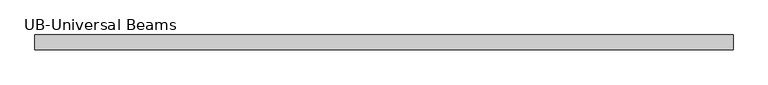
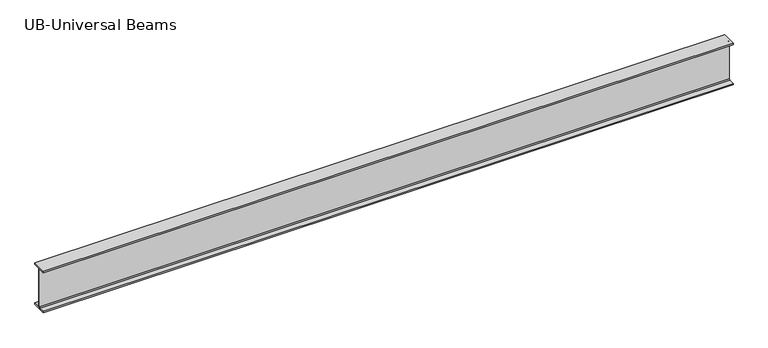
"""IFC4 building model written with IfcOpenShell, lengths in millimetres: beam geometry."""

import ifcopenshell
import ifcopenshell.guid

model = None  # the IFC model being written
_history = None  # IfcOwnerHistory: only IFC2X3 demands one
_inside = {}  # id of a spatial element -> (the spatial element, [elements in it])
_under = {}  # id of a project, library or spatial element -> (it, [spatial elements below it])
_declared = {}  # id of a project -> (the project, [libraries it declares])
_typed = {}  # id of a type object -> (the type object, [elements of that type])
_made_of = {}  # id of a material, layer set ... -> (it, [elements and type objects made of it])


def new_model(schema):
    """Start an empty IFC model of exactly this schema.

    Asked for "IFC4X3", IfcOpenShell would pick the latest addendum, in which some entities
    have other attributes; the version numbers below select the first issue.
    IFC2X3 requires an IfcOwnerHistory on every rooted entity: one is made here for all.
    """
    global model, _history
    if schema == "IFC4X3":
        model = ifcopenshell.file(schema_version=(4, 3, 0, 0))
    else:
        model = ifcopenshell.file(schema=schema)
    _inside.clear()
    _under.clear()
    _declared.clear()
    _typed.clear()
    _made_of.clear()
    _history = None
    if model.schema == "IFC2X3":
        org = make("IfcOrganization", Name="unknown")
        user = make(
            "IfcPersonAndOrganization",
            ThePerson=make("IfcPerson", FamilyName="unknown"),
            TheOrganization=org,
        )
        app = make(
            "IfcApplication",
            ApplicationDeveloper=org,
            Version="unknown",
            ApplicationFullName="unknown",
            ApplicationIdentifier="unknown",
        )
        _history = make(
            "IfcOwnerHistory",
            OwningUser=user,
            OwningApplication=app,
            ChangeAction="ADDED",
            CreationDate=0,
        )
    return model


def make(cls, **values):
    """One entity of the class cls with the attributes given. An attribute that is None is left unset."""
    return model.create_entity(
        cls, **{name: value for name, value in values.items() if value is not None}
    )


def rooted(cls, **values):
    """An entity with a GlobalId (a new one), such as an element, a storey or a relation."""
    return make(cls, GlobalId=ifcopenshell.guid.new(), OwnerHistory=_history, **values)


def si_unit(unit_type, name, prefix=None):
    """IfcSIUnit, for example si_unit("LENGTHUNIT", "METRE", prefix="MILLI")."""
    return make("IfcSIUnit", UnitType=unit_type, Prefix=prefix, Name=name)


def assignment(units):
    """IfcUnitAssignment: the units of a project."""
    return None if units is None else make("IfcUnitAssignment", Units=units)


def point(xyz):
    """IfcCartesianPoint."""
    return None if xyz is None else make("IfcCartesianPoint", Coordinates=xyz)


def direction(xyz):
    """IfcDirection."""
    return None if xyz is None else make("IfcDirection", DirectionRatios=xyz)


def frame(location, z_axis=None, x_axis=None):
    """IfcAxis2Placement3D, a coordinate frame: its origin and axes. An axis left out is left unset."""
    return make(
        "IfcAxis2Placement3D",
        Location=point(location),
        Axis=direction(z_axis),
        RefDirection=direction(x_axis),
    )


def frame_2d(location, x_axis=None):
    """IfcAxis2Placement2D, a coordinate frame in the plane: its origin and x axis."""
    return make(
        "IfcAxis2Placement2D", Location=point(location), RefDirection=direction(x_axis)
    )


def origin():
    """The frame at (0, 0, 0) with its axes left unset."""
    return frame((0.0, 0.0, 0.0))


def place(relative_to, where):
    """IfcLocalPlacement: puts the frame where relative to a parent placement (None: the world)."""
    return make(
        "IfcLocalPlacement", PlacementRelTo=relative_to, RelativePlacement=where
    )


def context(
    kind, dimensions, precision=None, world=None, true_north=None, identifier=None
):
    """IfcGeometricRepresentationContext, for example the 3D "Model" context."""
    return make(
        "IfcGeometricRepresentationContext",
        ContextIdentifier=identifier,
        ContextType=kind,
        CoordinateSpaceDimension=dimensions,
        Precision=precision,
        WorldCoordinateSystem=world,
        TrueNorth=true_north,
    )


def project(units=None, contexts=None):
    """IfcProject with its units and contexts."""
    return rooted(
        "IfcProject",
        Name="project",
        RepresentationContexts=contexts,
        UnitsInContext=assignment(units),
    )


def spatial(cls, under=None, at=None, **own):
    """A site, building, storey or space (cls), placed at a placement, below another one or the project."""
    s = rooted(cls, ObjectPlacement=at, **own)
    if under is not None:
        _under.setdefault(under.id(), (under, []))[1].append(s)
    return s


def polyline(points):
    """IfcPolyline through the points."""
    return make("IfcPolyline", Points=[point(p) for p in points])


def circle_curve(where, radius):
    """IfcCircle in the frame where."""
    return make("IfcCircle", Position=where, Radius=radius)


def trimmed(basis, trim1, trim2, sense, master):
    """IfcTrimmedCurve: the piece of a basis curve between two trims."""
    return make(
        "IfcTrimmedCurve",
        BasisCurve=basis,
        Trim1=trim1,
        Trim2=trim2,
        SenseAgreement=sense,
        MasterRepresentation=master,
    )


def segment(curve, same_sense, transition):
    """IfcCompositeCurveSegment."""
    return make(
        "IfcCompositeCurveSegment",
        Transition=transition,
        SameSense=same_sense,
        ParentCurve=curve,
    )


def composite_curve(segments, self_intersect=None):
    """IfcCompositeCurve: segments joined end to end."""
    return make("IfcCompositeCurve", Segments=segments, SelfIntersect=self_intersect)


def outline(outer, holes=None, kind="AREA"):
    """IfcArbitraryClosedProfileDef: a profile drawn as a closed curve; with holes, ...WithVoids."""
    if holes is None:
        return make("IfcArbitraryClosedProfileDef", ProfileType=kind, OuterCurve=outer)
    return make(
        "IfcArbitraryProfileDefWithVoids",
        ProfileType=kind,
        OuterCurve=outer,
        InnerCurves=holes,
    )


def extrude(swept, where, along, depth):
    """IfcExtrudedAreaSolid: the profile swept, set in the frame where, extruded along a direction by depth."""
    return make(
        "IfcExtrudedAreaSolid",
        SweptArea=swept,
        Position=where,
        ExtrudedDirection=direction(along),
        Depth=depth,
    )


def shape(context_of_items, identifier, shape_type, items):
    """IfcShapeRepresentation: the items that make up one representation, for example the "Body"."""
    return make(
        "IfcShapeRepresentation",
        ContextOfItems=context_of_items,
        RepresentationIdentifier=identifier,
        RepresentationType=shape_type,
        Items=items,
    )


def source(mapping_origin, context_of_items, identifier, shape_type, items):
    """IfcRepresentationMap: a shape defined once, which mapped items show again and again."""
    return make(
        "IfcRepresentationMap",
        MappingOrigin=mapping_origin,
        MappedRepresentation=shape(context_of_items, identifier, shape_type, items),
    )


def transform(
    local_origin,
    x_axis=None,
    y_axis=None,
    z_axis=None,
    scale=None,
    scale2=None,
    scale3=None,
    uniform=True,
):
    """IfcCartesianTransformationOperator3D, or its non-uniform kind. x_axis, y_axis, z_axis: its Axis1, 2, 3."""
    if uniform:
        return make(
            "IfcCartesianTransformationOperator3D",
            Axis1=direction(x_axis),
            Axis2=direction(y_axis),
            LocalOrigin=point(local_origin),
            Scale=scale,
            Axis3=direction(z_axis),
        )
    return make(
        "IfcCartesianTransformationOperator3DnonUniform",
        Axis1=direction(x_axis),
        Axis2=direction(y_axis),
        LocalOrigin=point(local_origin),
        Scale=scale,
        Axis3=direction(z_axis),
        Scale2=scale2,
        Scale3=scale3,
    )


def mapped(mapping_source, mapping_target):
    """IfcMappedItem: shows the shape of a source again, moved by a transform."""
    return make(
        "IfcMappedItem", MappingSource=mapping_source, MappingTarget=mapping_target
    )


def made_of(thing, what):
    """Note that an element or type object is made of a material, layer set ...; save() writes the relation."""
    if what is not None:
        _made_of.setdefault(what.id(), (what, []))[1].append(thing)
    return thing


def element(
    cls,
    number,
    at=None,
    inside=None,
    cuts=None,
    type_object=None,
    material=None,
    context=None,
    identifier="Body",
    shape_type=None,
    held_by="IfcProductDefinitionShape",
    body=None,
    shapes=None,
    **own,
):
    """One element of the class cls, such as IfcWall. Its Tag is "e" and its number.

    at: its placement. inside: the storey or other place that contains it. cuts: it is an
    opening in that element (IfcRelVoidsElement). A single representation is given by context,
    identifier, shape_type and body (its items); several are given by shapes. held_by: the class
    of the entity that holds the representations. save() writes the other relations.
    """
    e = rooted(cls, Tag="e%d" % number, ObjectPlacement=at, **own)
    if body is not None:
        shapes = [shape(context, identifier, shape_type, body)]
    if shapes is not None:
        e.Representation = make(held_by, Representations=shapes)
    if inside is not None:
        _inside.setdefault(inside.id(), (inside, []))[1].append(e)
    if cuts is not None:
        rooted(
            "IfcRelVoidsElement", RelatingBuildingElement=cuts, RelatedOpeningElement=e
        )
    if type_object is not None:
        _typed.setdefault(type_object.id(), (type_object, []))[1].append(e)
    return made_of(e, material)


def aggregate(whole, parts):
    """IfcRelAggregates: a whole, such as a stair, and the parts it consists of."""
    return rooted("IfcRelAggregates", RelatingObject=whole, RelatedObjects=parts)


def save(model, path):
    """Write the relations noted so far, then the file.

    IfcRelAggregates (storeys below a building ...), IfcRelContainedInSpatialStructure (elements
    in a storey), IfcRelDefinesByType, IfcRelAssociatesMaterial and IfcRelDeclares: one each for
    every whole, place, type object, material and project.
    """
    for whole, parts in _under.values():
        aggregate(whole, parts)
    for where, things in _inside.values():
        rooted(
            "IfcRelContainedInSpatialStructure",
            RelatedElements=things,
            RelatingStructure=where,
        )
    for kind, things in _typed.values():
        rooted("IfcRelDefinesByType", RelatedObjects=things, RelatingType=kind)
    for what, things in _made_of.values():
        rooted("IfcRelAssociatesMaterial", RelatedObjects=things, RelatingMaterial=what)
    for by, libraries in _declared.values():
        rooted("IfcRelDeclares", RelatingContext=by, RelatedDefinitions=libraries)
    model.write(path)


def ub_universal_beams_18d3feb0(model_context):
    return source(origin(), model_context, "Body", "SweptSolid", [
        extrude(outline(composite_curve([segment(polyline([(76.9, -214.0), (76.9, -229.0), (-76.9, -229.0), (-76.9, -214.0), (-14.7, -214.0)]), True, "CONTINUOUS"), segment(trimmed(circle_curve(frame_2d((-14.7, -203.8)), 10.2), [point((-14.7, -214.0))], [point((-4.5, -203.8))], True, "CARTESIAN"), True, "CONTINUOUS"), segment(polyline([(-4.5, -203.8), (-4.5, 203.8)]), True, "CONTINUOUS"), segment(trimmed(circle_curve(frame_2d((-14.7, 203.8)), 10.2), [point((-4.5, 203.8))], [point((-14.7, 214.0))], True, "CARTESIAN"), True, "CONTINUOUS"), segment(polyline([(-14.7, 214.0), (-76.9, 214.0), (-76.9, 229.0), (76.9, 229.0), (76.9, 214.0), (14.7, 214.0)]), True, "CONTINUOUS"), segment(trimmed(circle_curve(frame_2d((14.7, 203.8)), 10.2), [point((14.7, 214.0))], [point((4.5, 203.8))], True, "CARTESIAN"), True, "CONTINUOUS"), segment(polyline([(4.5, 203.8), (4.5, -203.8)]), True, "CONTINUOUS"), segment(trimmed(circle_curve(frame_2d((14.7, -203.8)), 10.2), [point((4.5, -203.8))], [point((14.7, -214.0))], True, "CARTESIAN"), True, "CONTINUOUS"), segment(polyline([(14.7, -214.0), (76.9, -214.0)]), True, "CONTINUOUS")], self_intersect=False)), frame((-3587.3, 0.0, 0.0), z_axis=(1.0, 0.0, 0.0), x_axis=(0.0, 1.0, 0.0)), (0.0, 0.0, 1.0), 7193.9),
    ])


if __name__ == "__main__":
    model = new_model("IFC4")
    model_context = context("Model", 3, world=origin())
    ifc_project = project(units=[si_unit("LENGTHUNIT", "METRE", prefix="MILLI")], contexts=[model_context])
    site = spatial("IfcSite", under=ifc_project)
    building = spatial("IfcBuilding", under=site)
    placement = place(None, origin())
    ub_universal_beams_shape = ub_universal_beams_18d3feb0(model_context)
    element("IfcBeam", 1, ObjectType="UB-Universal Beams : UB 18\" x 6\" x 2 1/2\"", at=placement, inside=building, context=model_context, shape_type="MappedRepresentation", body=[
        mapped(ub_universal_beams_shape, transform((0.0, 0.0, 0.0), x_axis=(1.0, 0.0, 0.0), y_axis=(0.0, 1.0, 0.0), z_axis=(0.0, 0.0, 1.0))),
    ])
    save(model, "model.ifc")
